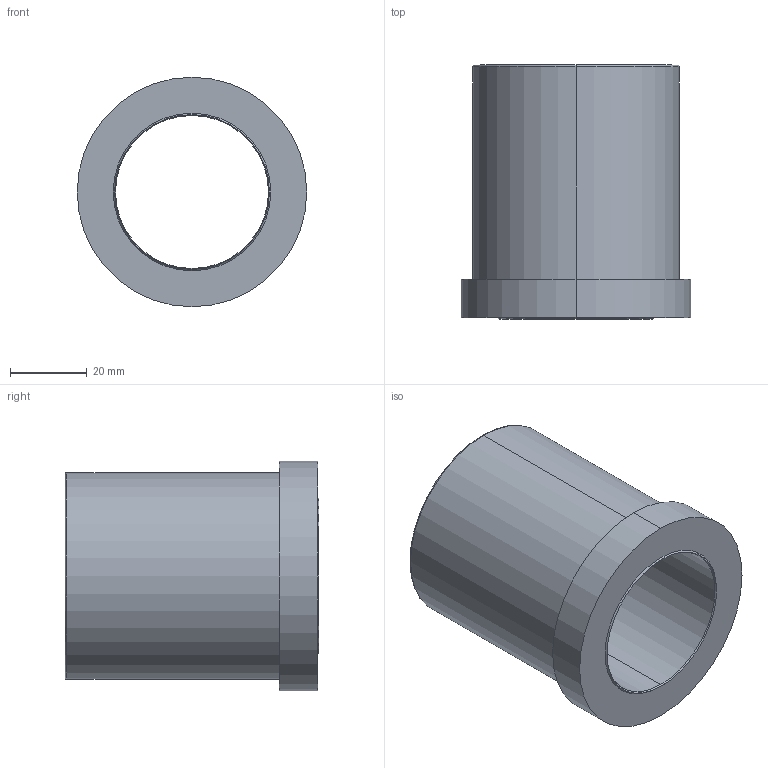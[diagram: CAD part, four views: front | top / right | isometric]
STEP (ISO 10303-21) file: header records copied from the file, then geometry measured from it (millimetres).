
FILE_DESCRIPTION (( 'STEP AP214' ), '1' );
FILE_NAME ('BR11W 40 x 66.STEP', '2020-07-16T11:29:58', ( 'August' ), ( '' ), 'SwSTEP 2.0', 'SolidWorks 2018', '' );
FILE_SCHEMA (( 'AUTOMOTIVE_DESIGN' ));
Length unit declared in the file: millimetre
Products named in the file (1): BR11W 40 x 66
Bounding box: 60 x 66.36 x 60 mm (x, y, z)
Volume: 73577.5 mm3; surface area: 22791 mm2
Topology: 1 solids, 1 shells, 17 faces, 34 edges, 20 vertices
Faces by surface type: cone 6, cylinder 6, plane 3, torus 2
Entity records: 484 total; most frequent: DIRECTION 92, CARTESIAN_POINT 72, ORIENTED_EDGE 68, AXIS2_PLACEMENT_3D 40, EDGE_CURVE 34, CIRCLE 22, EDGE_LOOP 20, VERTEX_POINT 20
